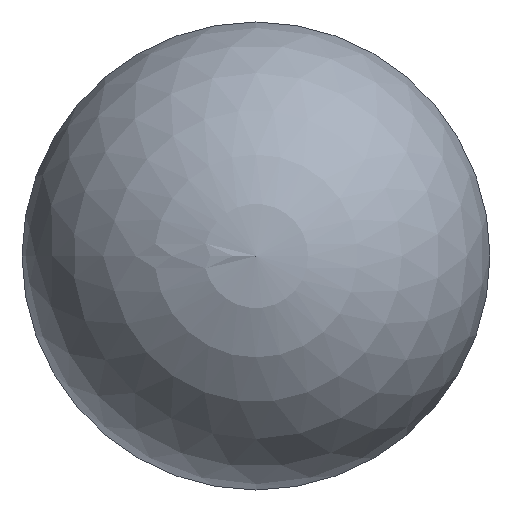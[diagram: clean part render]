
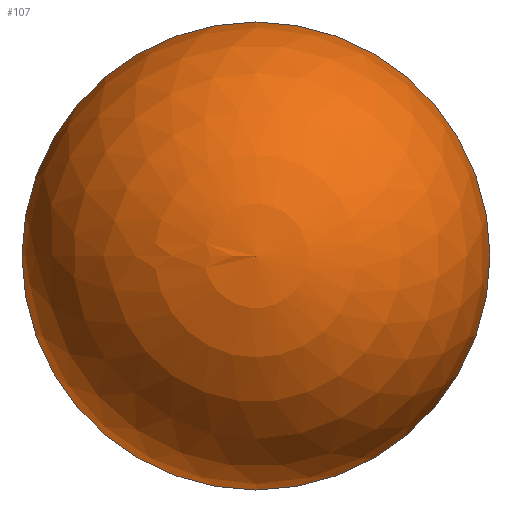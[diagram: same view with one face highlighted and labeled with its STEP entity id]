
A CAD part, left-side view. The second image highlights one B-rep face of the part: STEP entity #107.
In plain terms, the highlighted spherical face has radius 5 mm.
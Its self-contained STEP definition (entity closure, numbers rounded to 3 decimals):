
#95=SPHERICAL_SURFACE('',#187,5.);
#101=FACE_OUTER_BOUND('',#134,.T.);
#107=ADVANCED_FACE('',(#101),#95,.T.);
#134=EDGE_LOOP('',(#148));
#148=ORIENTED_EDGE('',*,*,#166,.T.);
#159=VERTEX_POINT('',#241);
#166=EDGE_CURVE('',#159,#159,#173,.T.);
#173=CIRCLE('',#186,5.);
#186=AXIS2_PLACEMENT_3D('',#240,#214,#215);
#187=AXIS2_PLACEMENT_3D('',#242,#216,#217);
#214=DIRECTION('',(-1.,0.,0.));
#215=DIRECTION('',(0.,-1.,0.));
#216=DIRECTION('',(-1.,0.,0.));
#217=DIRECTION('',(0.,1.,0.));
#240=CARTESIAN_POINT('',(7856.76,6110.285,0.));
#241=CARTESIAN_POINT('',(7856.76,6105.285,0.));
#242=CARTESIAN_POINT('',(7856.76,6110.285,0.));
